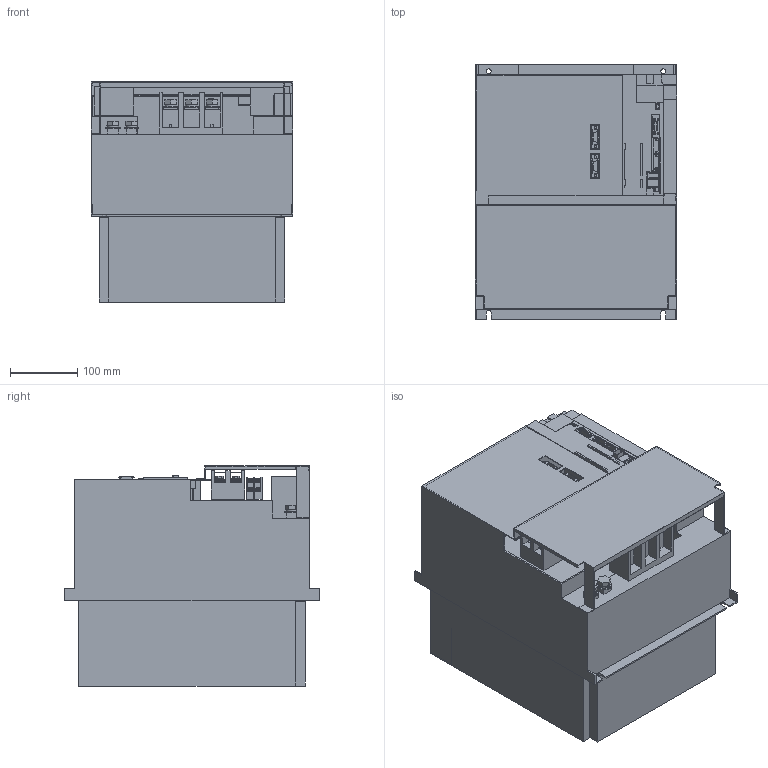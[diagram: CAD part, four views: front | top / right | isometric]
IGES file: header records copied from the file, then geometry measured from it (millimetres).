
Start section: SolidWorks IGES file using analytic representation for surfaces
Global section: file name: C:\work\mr-j3-du45kb4_a.igs; native system: SolidWorks 2006 by SolidWorks Corporation; preprocessor: SolidWorks 2006 by SolidWorks Corporation; author: user; date: 091202.090152; units: millimetre
Bounding box: 300 x 380 x 328 mm (x, y, z)
Volume: 12062307.4 mm3; surface area: 1521051.4 mm2
Topology: 67 solids, 67 shells, 1407 faces, 3442 edges, 2209 vertices
Faces by surface type: plane 1005, revolution 270, bspline 132
